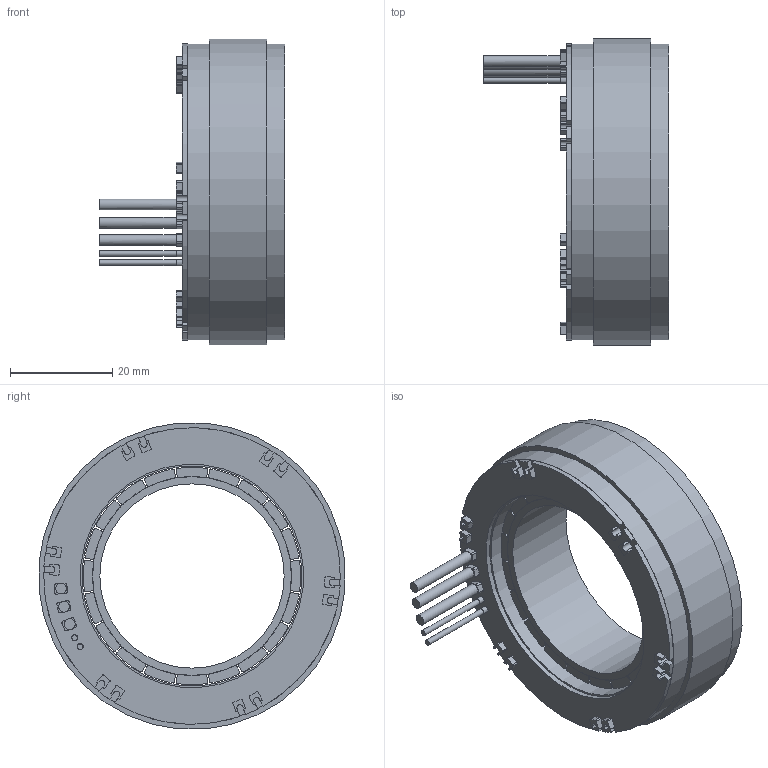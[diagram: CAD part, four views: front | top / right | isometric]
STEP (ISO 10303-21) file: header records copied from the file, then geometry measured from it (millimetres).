
FILE_DESCRIPTION( ('This file contains a STEP AP42 implementation' ,'as created by ZW3D STEP Interface translator.') ,'2;1' );
FILE_NAME( '6011.stp' ,'26 123.165724', (''), ('ZWCAD Software Co.'), 'Version 1.0', 'ZW3D to STEP translator', '' );
FILE_SCHEMA(('AUTOMOTIVE_DESIGN { 1 0 10303 214 1 1 1 1 }'));
Length unit declared in the file: millimetre
Products named in the file (4): 0; 6011; 6011隅赽; 6011蛌赽
Assembly tree (2 placements, depth 2):
  0
  6011
    6011隅赽
    6011蛌赽
Bounding box: 36.2 x 59.78 x 59.78 mm (x, y, z)
Volume: 31657.4 mm3; surface area: 25405.2 mm2
Topology: 25 solids, 25 shells, 413 faces, 1056 edges, 700 vertices
Faces by surface type: cylinder 232, plane 181
Full cylindrical faces by diameter (mm): 1.1 x2, 1.2 x2, 2.1 x3, 36 x1, 38.85 x1, 43 x3, 43.65 x1, 58 x2, 60 x1
Entity records: 13164 total; most frequent: DIRECTION 2372, CARTESIAN_POINT 2176, ORIENTED_EDGE 2112, EDGE_CURVE 1056, AXIS2_PLACEMENT_3D 896, VERTEX_POINT 700, VECTOR 580, LINE 580
